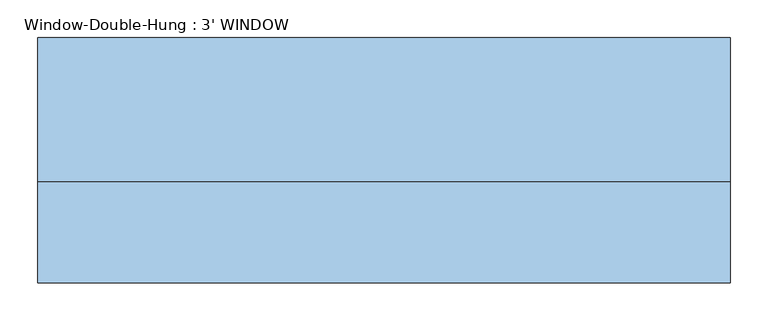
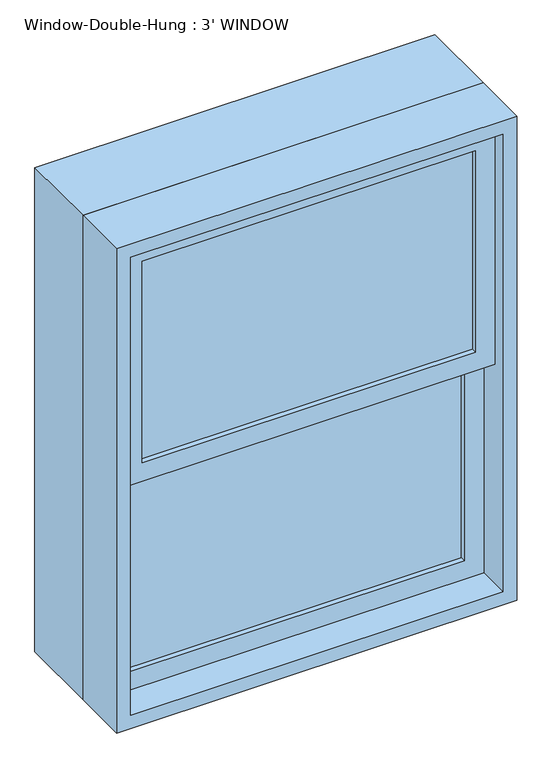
"""IFC4 building model written with IfcOpenShell, lengths in millimetres: window geometry, Window-Double-Hung : 3' WINDOW."""

from ifc_helpers import new_model, si_unit, frame, origin, place, context, project, spatial, polyline, outline, extrude, source, transform, mapped, element, save


def window_double_hung_3_window_62e769ca(model_context):
    return source(origin(), model_context, "Body", "SweptSolid", [
        extrude(outline(polyline([(381.0, -82.55), (-381.0, -82.55), (-381.0, -76.2), (381.0, -76.2), (381.0, -82.55)])), frame((0.0, 0.0, 990.6), z_axis=(0.0, 0.0, 1.0), x_axis=(1.0, 0.0, 0.0)), (0.0, 0.0, 1.0), 485.775),
        extrude(outline(polyline([(-381.0, -69.85), (-381.0, -63.5), (381.0, -63.5), (381.0, -69.85), (-381.0, -69.85)])), frame((0.0, 0.0, 990.6), z_axis=(0.0, 0.0, 1.0), x_axis=(1.0, 0.0, 0.0)), (0.0, 0.0, 1.0), 485.775),
        extrude(outline(polyline([(381.0, -127.0), (-381.0, -127.0), (-381.0, -120.65), (381.0, -120.65), (381.0, -127.0)])), frame((0.0, 0.0, 1520.825), z_axis=(0.0, 0.0, 1.0), x_axis=(1.0, 0.0, 0.0)), (0.0, 0.0, 1.0), 485.775),
        extrude(outline(polyline([(-381.0, -114.3), (-381.0, -107.95), (381.0, -107.95), (381.0, -114.3), (-381.0, -114.3)])), frame((0.0, 0.0, 1520.825), z_axis=(0.0, 0.0, 1.0), x_axis=(1.0, 0.0, 0.0)), (0.0, 0.0, 1.0), 485.775),
        extrude(outline(polyline([(1520.825, 425.45), (1520.825, -425.45), (946.15, -425.45), (946.15, 425.45), (1520.825, 425.45)]), holes=[polyline([(1476.375, -381.0), (1476.375, 381.0), (990.6, 381.0), (990.6, -381.0), (1476.375, -381.0)])]), frame((0.0, -95.25, 0.0), z_axis=(0.0, 1.0, 0.0), x_axis=(0.0, 0.0, 1.0)), (0.0, 0.0, 1.0), 44.45),
        extrude(outline(polyline([(2051.05, 425.45), (2051.05, -425.45), (1476.375, -425.45), (1476.375, 425.45), (2051.05, 425.45)]), holes=[polyline([(2006.6, -381.0), (2006.6, 381.0), (1520.825, 381.0), (1520.825, -381.0), (2006.6, -381.0)])]), frame((0.0, -139.7, 0.0), z_axis=(0.0, 1.0, 0.0), x_axis=(0.0, 0.0, 1.0)), (0.0, 0.0, 1.0), 44.45),
        extrude(outline(polyline([(2082.8, 457.2), (2082.8, -457.2), (914.4, -457.2), (914.4, 457.2), (2082.8, 457.2)]), holes=[polyline([(2051.05, -425.45), (2051.05, 425.45), (946.15, 425.45), (946.15, -425.45), (2051.05, -425.45)])]), frame((0.0, -171.45, 0.0), z_axis=(0.0, 1.0, 0.0), x_axis=(0.0, 0.0, 1.0)), (0.0, 0.0, 1.0), 133.35),
        extrude(outline(polyline([(2082.8, 457.2), (2082.8, -457.2), (914.4, -457.2), (914.4, 457.2), (2082.8, 457.2)]), holes=[polyline([(2063.75, 438.15), (933.45, 438.15), (933.45, -438.15), (2063.75, -438.15), (2063.75, 438.15)])]), frame((0.0, -38.1, 0.0), z_axis=(0.0, 1.0, 0.0), x_axis=(0.0, 0.0, 1.0)), (0.0, 0.0, 1.0), 190.5),
    ])


if __name__ == "__main__":
    model = new_model("IFC4")
    model_context = context("Model", 3, world=origin())
    ifc_project = project(units=[si_unit("LENGTHUNIT", "METRE", prefix="MILLI")], contexts=[model_context])
    site = spatial("IfcSite", under=ifc_project)
    building = spatial("IfcBuilding", under=site)
    placement = place(None, origin())
    window_double_hung_3_window_shape = window_double_hung_3_window_62e769ca(model_context)
    element("IfcWindow", 1, ObjectType="Window-Double-Hung : 3' WINDOW", at=placement, inside=building, context=model_context, shape_type="MappedRepresentation", body=[
        mapped(window_double_hung_3_window_shape, transform((0.0, 0.0, 0.0), x_axis=(1.0, 0.0, 0.0), y_axis=(0.0, 1.0, 0.0), z_axis=(0.0, 0.0, 1.0))),
    ])
    save(model, "model.ifc")
